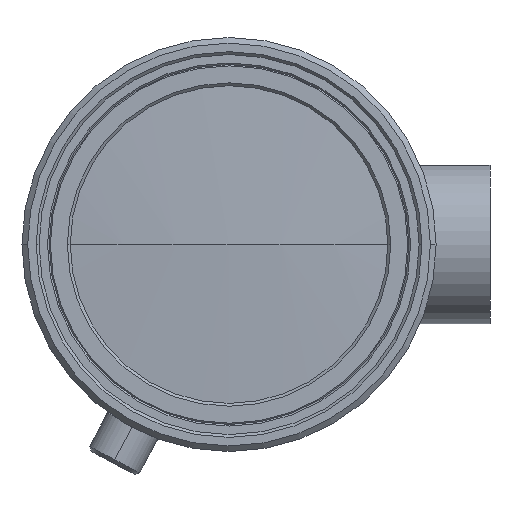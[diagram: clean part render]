
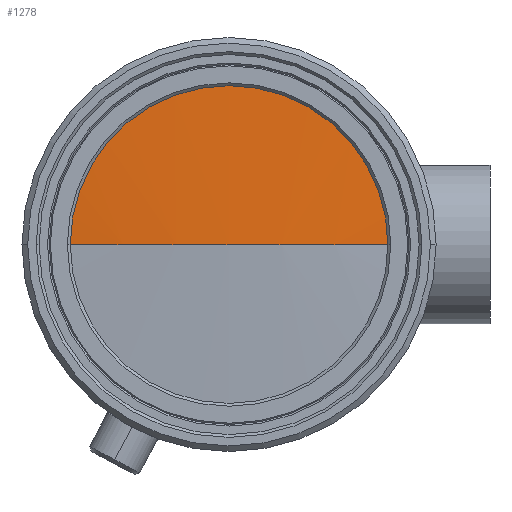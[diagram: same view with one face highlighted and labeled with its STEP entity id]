
A CAD part, left-side view. The second image highlights one B-rep face of the part: STEP entity #1278.
In plain terms, the highlighted spherical face has radius 172.5 mm.
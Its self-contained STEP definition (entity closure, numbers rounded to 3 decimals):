
#40 = CARTESIAN_POINT ( 'NONE',  ( -108.63, 0., 0. ) ) ;
#391 = AXIS2_PLACEMENT_3D ( 'NONE', #1401, #1132, #560 ) ;
#559 = DIRECTION ( 'NONE',  ( 0., 1., 0. ) ) ;
#560 = DIRECTION ( 'NONE',  ( -1., 0., 0. ) ) ;
#572 = ORIENTED_EDGE ( 'NONE', *, *, #2090, .F. ) ;
#725 = AXIS2_PLACEMENT_3D ( 'NONE', #964, #2933, #559 ) ;
#802 = CIRCLE ( 'NONE', #391, 172.5 ) ;
#852 = FACE_OUTER_BOUND ( 'NONE', #2561, .T. ) ;
#964 = CARTESIAN_POINT ( 'NONE',  ( 63.87, 0., 0. ) ) ;
#1051 = DIRECTION ( 'NONE',  ( 1., 0., 0. ) ) ;
#1087 = EDGE_CURVE ( 'NONE', #3313, #3551, #802, .T. ) ;
#1132 = DIRECTION ( 'NONE',  ( 0., 0., -1. ) ) ;
#1278 = ADVANCED_FACE ( 'NONE', ( #852 ), #2493, .T. ) ;
#1284 = DIRECTION ( 'NONE',  ( 0., 0., 1. ) ) ;
#1392 = ORIENTED_EDGE ( 'NONE', *, *, #3147, .T. ) ;
#1401 = CARTESIAN_POINT ( 'NONE',  ( 63.87, 0., 0. ) ) ;
#1577 = AXIS2_PLACEMENT_3D ( 'NONE', #3045, #1284, #3326 ) ;
#1671 = CARTESIAN_POINT ( 'NONE',  ( -108.061, -14., 0. ) ) ;
#2074 = ORIENTED_EDGE ( 'NONE', *, *, #1087, .F. ) ;
#2090 = EDGE_CURVE ( 'NONE', #3551, #2788, #2900, .T. ) ;
#2493 = SPHERICAL_SURFACE ( 'NONE', #725, 172.5 ) ;
#2561 = EDGE_LOOP ( 'NONE', ( #2074, #1392, #572 ) ) ;
#2628 = CARTESIAN_POINT ( 'NONE',  ( -108.061, 14., 0. ) ) ;
#2788 = VERTEX_POINT ( 'NONE', #1671 ) ;
#2822 = CARTESIAN_POINT ( 'NONE',  ( -108.061, 0., 0. ) ) ;
#2900 = CIRCLE ( 'NONE', #2928, 14. ) ;
#2928 = AXIS2_PLACEMENT_3D ( 'NONE', #2822, #1051, #3110 ) ;
#2933 = DIRECTION ( 'NONE',  ( 0., 0., 1. ) ) ;
#3045 = CARTESIAN_POINT ( 'NONE',  ( 63.87, 0., 0. ) ) ;
#3110 = DIRECTION ( 'NONE',  ( 0., 1., 0. ) ) ;
#3147 = EDGE_CURVE ( 'NONE', #3313, #2788, #3697, .T. ) ;
#3313 = VERTEX_POINT ( 'NONE', #40 ) ;
#3326 = DIRECTION ( 'NONE',  ( 0., -1., 0. ) ) ;
#3551 = VERTEX_POINT ( 'NONE', #2628 ) ;
#3697 = CIRCLE ( 'NONE', #1577, 172.5 ) ;
